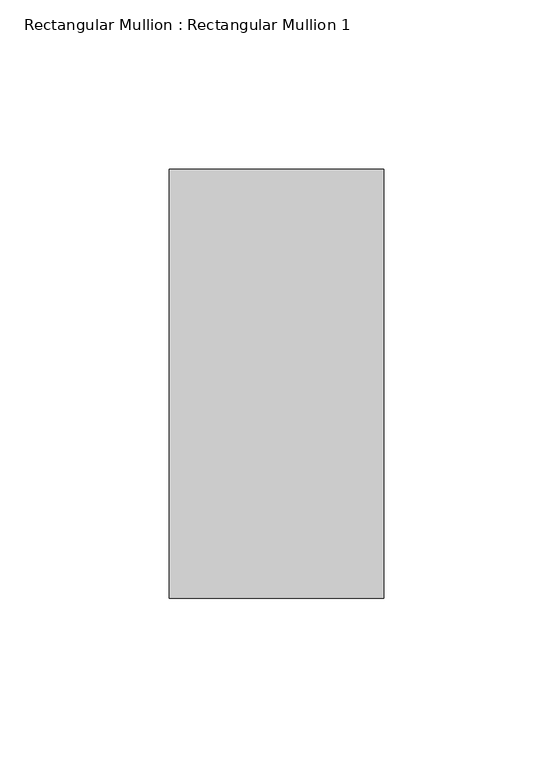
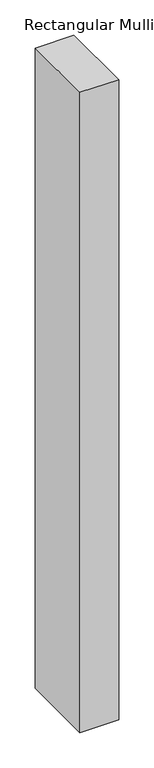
"""IFC4 building model written with IfcOpenShell, lengths in millimetres: member geometry, Rectangular Mullion : Rectangular Mullion 1."""

from ifc_helpers import new_model, si_unit, frame, origin, place, context, project, spatial, polyline, outline, extrude, source, transform, mapped, element, save


def rectangular_mullion_rectangular_mullion_1_10e992ee(model_context):
    return source(origin(), model_context, "Body", "SweptSolid", [
        extrude(outline(polyline([(31.75, 63.5), (31.75, -63.5), (-31.75, -63.5), (-31.75, 63.5), (31.75, 63.5)])), frame((0.0, 0.0, -1109.8471191), z_axis=(0.0, 0.0, 1.0), x_axis=(1.0, 0.0, 0.0)), (0.0, 0.0, 1.0), 1109.8471191),
    ])


if __name__ == "__main__":
    model = new_model("IFC4")
    model_context = context("Model", 3, world=origin())
    ifc_project = project(units=[si_unit("LENGTHUNIT", "METRE", prefix="MILLI")], contexts=[model_context])
    site = spatial("IfcSite", under=ifc_project)
    building = spatial("IfcBuilding", under=site)
    placement = place(None, origin())
    rectangular_mullion_rectangular_mullion_1_shape = rectangular_mullion_rectangular_mullion_1_10e992ee(model_context)
    element("IfcMember", 1, ObjectType="Rectangular Mullion : Rectangular Mullion 1", at=placement, inside=building, context=model_context, shape_type="MappedRepresentation", body=[
        mapped(rectangular_mullion_rectangular_mullion_1_shape, transform((0.0, 0.0, 0.0), x_axis=(1.0, 0.0, 0.0), y_axis=(0.0, 1.0, 0.0), z_axis=(0.0, 0.0, 1.0))),
    ])
    save(model, "model.ifc")
